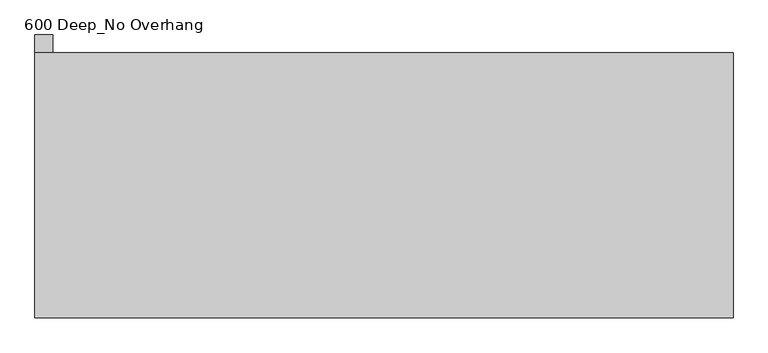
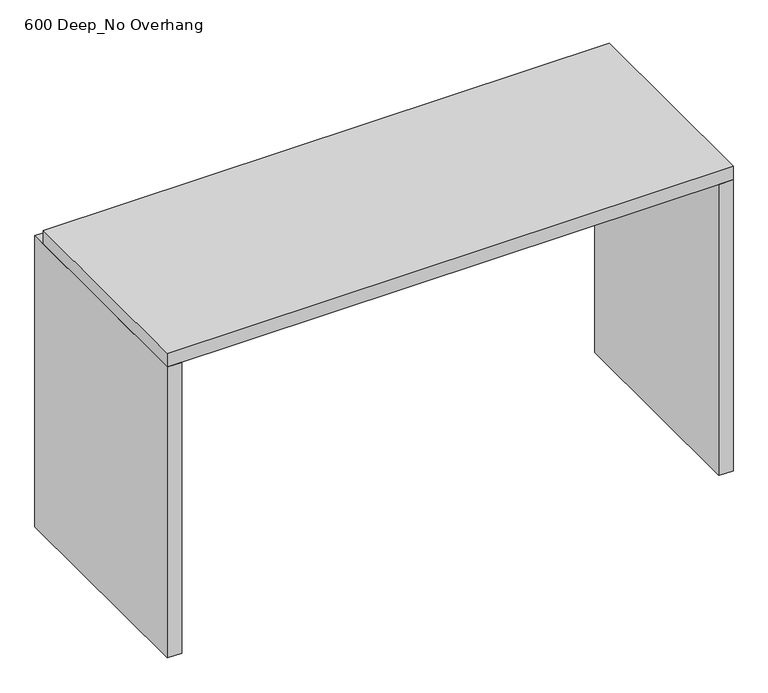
"""IFC4 building model written with IfcOpenShell, lengths in millimetres: furniture geometry, Benchtop_Optional Hole_I Shaped_CAS : 600 Deep_No Overhang."""

from ifc_helpers import new_model, si_unit, frame, origin, origin_with_axes, place, context, project, spatial, polyline, outline, extrude, source, transform, mapped, element, save


def furniture_600_deep_no_overhang_bc65c225(model_context):
    return source(origin(), model_context, "Body", "SweptSolid", [
        extrude(outline(polyline([(385.5714229, -600.0), (385.5714229, 0.0), (425.5714229, 0.0), (425.5714229, -600.0), (385.5714229, -600.0)])), origin_with_axes(), (0.0, 0.0, 1.0), 860.0),
        extrude(outline(polyline([(-1115.2996736, 40.0), (-1115.2996736, -600.0), (-1155.2996736, -600.0), (-1155.2996736, 40.0), (-1115.2996736, 40.0)])), origin_with_axes(), (0.0, 0.0, 1.0), 860.0),
        extrude(outline(polyline([(425.5714229, 0.0), (425.5714229, -600.0), (-1155.2996736, -600.0), (-1155.2996736, 0.0), (425.5714229, 0.0)])), frame((0.0, 0.0, 860.0), z_axis=(0.0, 0.0, 1.0), x_axis=(1.0, 0.0, 0.0)), (0.0, 0.0, 1.0), 40.0),
    ])


if __name__ == "__main__":
    model = new_model("IFC4")
    model_context = context("Model", 3, world=origin())
    ifc_project = project(units=[si_unit("LENGTHUNIT", "METRE", prefix="MILLI")], contexts=[model_context])
    site = spatial("IfcSite", under=ifc_project)
    building = spatial("IfcBuilding", under=site)
    placement = place(None, origin())
    furniture_600_deep_no_overhang_shape = furniture_600_deep_no_overhang_bc65c225(model_context)
    element("IfcFurniture", 1, ObjectType="Benchtop_Optional Hole_I Shaped_CAS : 600 Deep_No Overhang", at=placement, inside=building, context=model_context, shape_type="MappedRepresentation", body=[
        mapped(furniture_600_deep_no_overhang_shape, transform((0.0, 0.0, 0.0), x_axis=(1.0, 0.0, 0.0), y_axis=(0.0, 1.0, 0.0), z_axis=(0.0, 0.0, 1.0))),
    ])
    save(model, "model.ifc")
